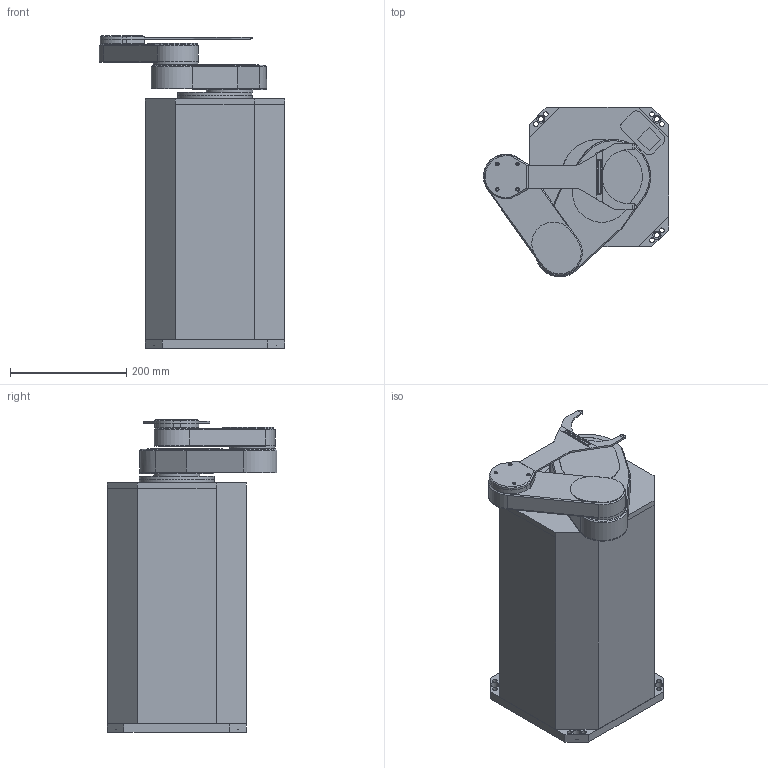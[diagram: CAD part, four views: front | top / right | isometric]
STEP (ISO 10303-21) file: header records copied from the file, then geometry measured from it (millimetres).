
FILE_DESCRIPTION(/* description */ (''),/* implementation_level */ '2;1');
FILE_NAME(/* name */ 'C:\Users\h-mitaka\Desktop\新しいフォルダー\3D-09737\SCR3160CSN-300-CM-09737.stp',/* time_stamp */ '2018-04-05T10:01:53+09:00',/* author */ ('h-mitaka'),/* organization */ (''),/* preprocessor_version */ 'ST-DEVELOPER v16.13',/* originating_system */ 'Autodesk Inventor 2018',/* authorisation */ '');
FILE_SCHEMA (('AUTOMOTIVE_DESIGN { 1 0 10303 214 3 1 1 }'));
Length unit declared in the file: millimetre
Products named in the file (8): SCR3160CSN-300-CM-09737; BODY-TB300; PIPE-SNCT300; ARM1-SC160; ARM2-SC160; WRIST-BLOCK; END-EFFECTOR; WRIST-BLOCK_1
Assembly tree (7 placements, depth 2):
  SCR3160CSN-300-CM-09737
    BODY-TB300
    PIPE-SNCT300
    ARM1-SC160
    ARM2-SC160
    WRIST-BLOCK
    END-EFFECTOR
    WRIST-BLOCK_1
Bounding box: 318.87 x 292.48 x 539 mm (x, y, z)
Volume: 24450577.2 mm3; surface area: 935331.5 mm2
Topology: 7 solids, 7 shells, 268 faces, 671 edges, 443 vertices
Faces by surface type: plane 177, cylinder 81, cone 10
Full cylindrical faces by diameter (mm): 3 x4, 3.6 x4, 4 x1, 8 x8, 9 x4, 10 x2, 14 x4, 50 x2, 51 x1, 65 x1, 71 x1, 77.99 x1, 80 x1, 127.99 x1, 128.99 x1, 129 x2
Entity records: 7984 total; most frequent: DIRECTION 1361, CARTESIAN_POINT 1315, ORIENTED_EDGE 1218, EDGE_CURVE 609, AXIS2_PLACEMENT_3D 469, LINE 423, VECTOR 423, VERTEX_POINT 423
